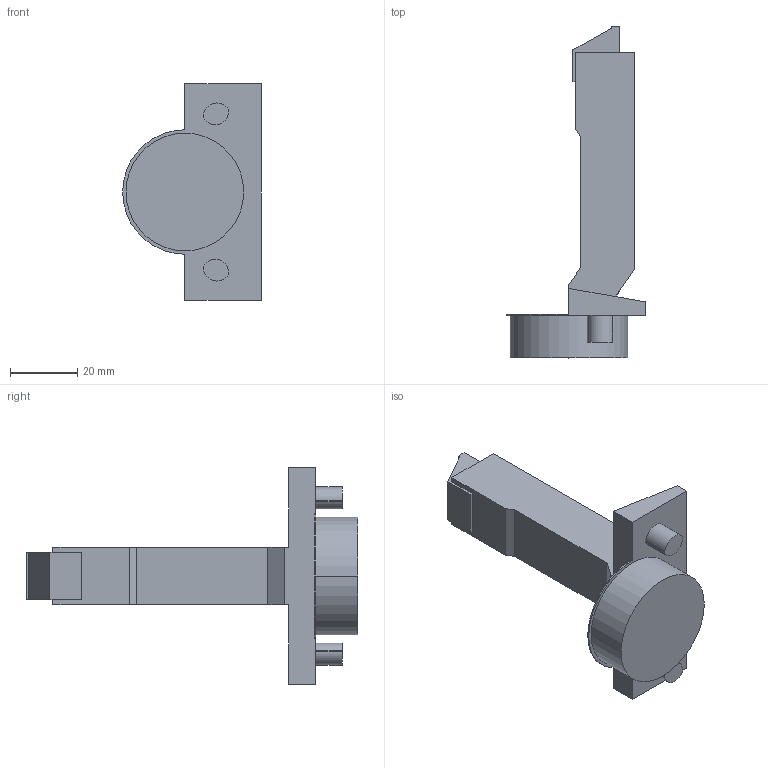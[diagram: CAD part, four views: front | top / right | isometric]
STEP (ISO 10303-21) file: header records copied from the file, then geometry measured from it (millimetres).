
FILE_DESCRIPTION (( 'STEP AP214' ), '1' );
FILE_NAME ('Scharnier TT Impresso 110° MB_BB, K00.step', '2018-09-12T09:10:59', ( '' ), ( '' ), 'SwSTEP 2.0', 'SolidWorks 2017', '' );
FILE_SCHEMA (( 'AUTOMOTIVE_DESIGN' ));
Length unit declared in the file: millimetre
Products named in the file (1): Scharnier TT Impresso 110° MB_BB, K00
Bounding box: 41.25 x 98.7 x 64.5 mm (x, y, z)
Volume: 42667.5 mm3; surface area: 12119.5 mm2
Topology: 1 solids, 1 shells, 48 faces, 120 edges, 80 vertices
Faces by surface type: plane 33, cylinder 15
Entity records: 1468 total; most frequent: CARTESIAN_POINT 249, DIRECTION 248, ORIENTED_EDGE 240, EDGE_CURVE 120, VECTOR 90, LINE 90, VERTEX_POINT 80, AXIS2_PLACEMENT_3D 79
